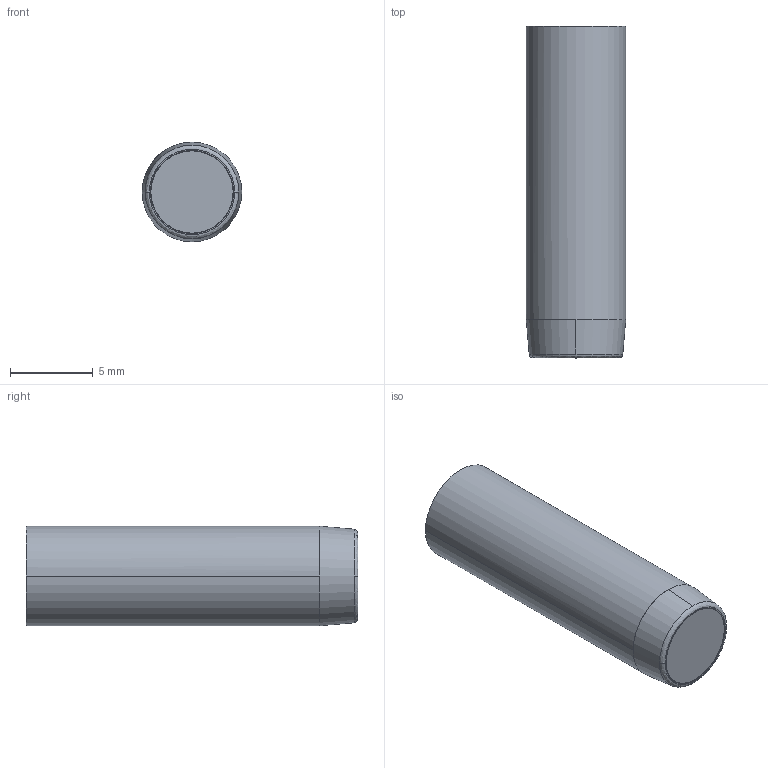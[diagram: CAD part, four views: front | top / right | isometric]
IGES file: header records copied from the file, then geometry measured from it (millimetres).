
Start section: START RECORD GO HERE.
Global section: file name: fa063205-20.igs; native system: DASSAULT SYSTEMES CATIA V5 R20 - www.3ds.com; preprocessor: CATIA Version 5 Release 20 ; author: Utente; organization: NB04-ASUS; date: 20201108.083854; units: millimetre
Bounding box: 6 x 20 x 6 mm (x, y, z)
Surface area: 1125.6 mm2 (no closed solid volume)
Topology: 0 solids, 0 shells, 351 faces, 1708 edges, 1704 vertices
Faces by surface type: revolution 136, plane 115, bspline 100
